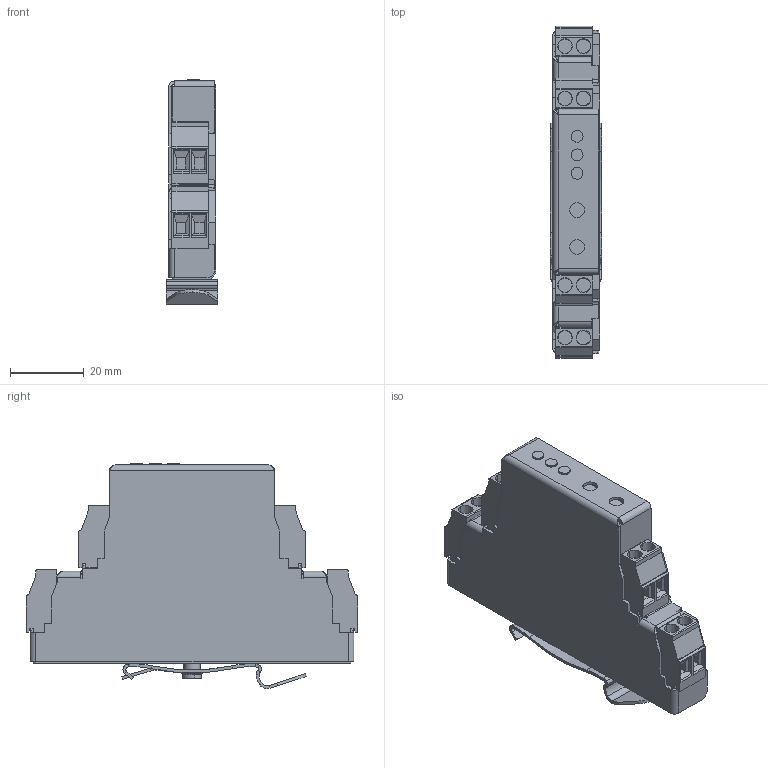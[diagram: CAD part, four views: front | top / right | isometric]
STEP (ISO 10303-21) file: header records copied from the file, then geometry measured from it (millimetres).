
FILE_DESCRIPTION (( 'STEP AP214' ), '1' );
FILE_NAME ('CMC.STEP', '2024-04-09T10:54:30', ( '' ), ( '' ), 'SwSTEP 2.0', 'SolidWorks 2022', '' );
FILE_SCHEMA (( 'AUTOMOTIVE_DESIGN' ));
Length unit declared in the file: millimetre
Products named in the file (1): CMC
Bounding box: 14 x 90 x 61.1 mm (x, y, z)
Volume: 44001.3 mm3; surface area: 20152.3 mm2
Topology: 1 solids, 7 shells, 827 faces, 2171 edges, 1379 vertices
Faces by surface type: plane 607, cylinder 210, bspline 8, cone 2
Entity records: 33948 total; most frequent: CARTESIAN_POINT 5009, ORIENTED_EDGE 4342, DIRECTION 4184, EDGE_CURVE 2171, VECTOR 1716, LINE 1716, VERTEX_POINT 1379, AXIS2_PLACEMENT_3D 1234
